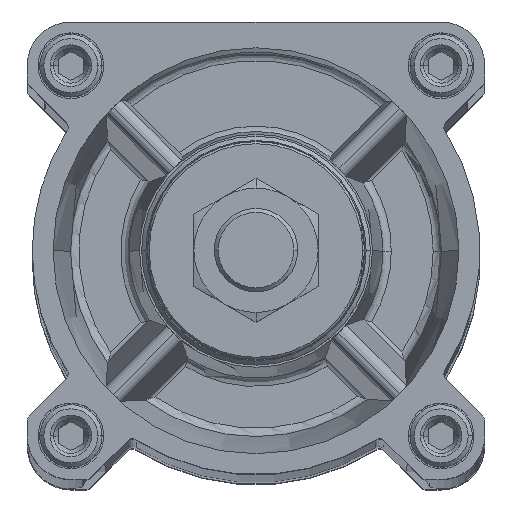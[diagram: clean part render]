
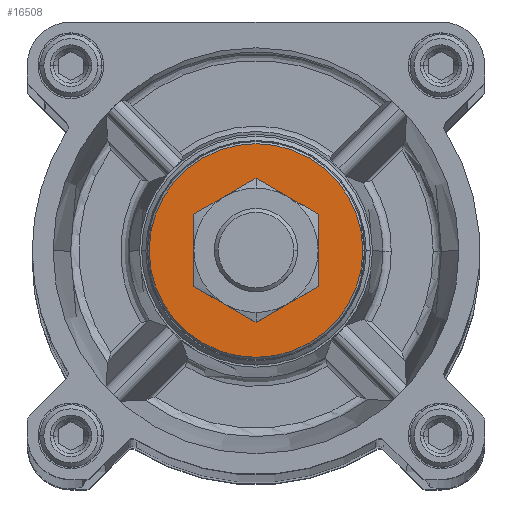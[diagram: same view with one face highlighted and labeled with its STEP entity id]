
A CAD part, top view. The second image highlights one B-rep face of the part: STEP entity #16508.
In plain terms, the highlighted planar face has unit normal (0, 0, 1).
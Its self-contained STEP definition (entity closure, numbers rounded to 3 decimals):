
#239 = EDGE_CURVE ( 'NONE', #12430, #11425, #13046, .T. ) ;
#898 = CIRCLE ( 'NONE', #14024, 12.5 ) ;
#1616 = AXIS2_PLACEMENT_3D ( 'NONE', #8321, #11285, #9859 ) ;
#1971 = ORIENTED_EDGE ( 'NONE', *, *, #239, .F. ) ;
#2018 = VERTEX_POINT ( 'NONE', #8880 ) ;
#2620 = ORIENTED_EDGE ( 'NONE', *, *, #13367, .T. ) ;
#2665 = FACE_BOUND ( 'NONE', #9127, .T. ) ;
#2748 = DIRECTION ( 'NONE',  ( 0., 0., -1. ) ) ;
#3447 = CARTESIAN_POINT ( 'NONE',  ( 0., 0., 38. ) ) ;
#4077 = DIRECTION ( 'NONE',  ( 0., 0., -1. ) ) ;
#4091 = DIRECTION ( 'NONE',  ( -1., 0., 0. ) ) ;
#4104 = FACE_OUTER_BOUND ( 'NONE', #16934, .T. ) ;
#4379 = EDGE_CURVE ( 'NONE', #11425, #12430, #17593, .T. ) ;
#5388 = CARTESIAN_POINT ( 'NONE',  ( 12.5, 0., 38. ) ) ;
#5629 = DIRECTION ( 'NONE',  ( 0., 0., -1. ) ) ;
#8321 = CARTESIAN_POINT ( 'NONE',  ( 0., 0., 38. ) ) ;
#8480 = PLANE ( 'NONE',  #17494 ) ;
#8546 = DIRECTION ( 'NONE',  ( -1., 0., 0. ) ) ;
#8729 = CARTESIAN_POINT ( 'NONE',  ( -25.681, 0., 38. ) ) ;
#8880 = CARTESIAN_POINT ( 'NONE',  ( -12.5, 0., 38. ) ) ;
#9127 = EDGE_LOOP ( 'NONE', ( #11475, #2620 ) ) ;
#9542 = CIRCLE ( 'NONE', #1616, 12.5 ) ;
#9859 = DIRECTION ( 'NONE',  ( -1., 0., 0. ) ) ;
#11285 = DIRECTION ( 'NONE',  ( 0., 0., -1. ) ) ;
#11423 = CARTESIAN_POINT ( 'NONE',  ( 0., 0., 38. ) ) ;
#11425 = VERTEX_POINT ( 'NONE', #16101 ) ;
#11475 = ORIENTED_EDGE ( 'NONE', *, *, #16078, .T. ) ;
#12430 = VERTEX_POINT ( 'NONE', #8729 ) ;
#13046 = CIRCLE ( 'NONE', #13661, 25.681 ) ;
#13319 = AXIS2_PLACEMENT_3D ( 'NONE', #3447, #16451, #17887 ) ;
#13367 = EDGE_CURVE ( 'NONE', #14770, #2018, #898, .T. ) ;
#13661 = AXIS2_PLACEMENT_3D ( 'NONE', #14302, #2748, #4091 ) ;
#14024 = AXIS2_PLACEMENT_3D ( 'NONE', #11423, #4077, #8546 ) ;
#14302 = CARTESIAN_POINT ( 'NONE',  ( 0., 0., 38. ) ) ;
#14770 = VERTEX_POINT ( 'NONE', #5388 ) ;
#15744 = ORIENTED_EDGE ( 'NONE', *, *, #4379, .F. ) ;
#15850 = DIRECTION ( 'NONE',  ( 0., -1., 0. ) ) ;
#16078 = EDGE_CURVE ( 'NONE', #2018, #14770, #9542, .T. ) ;
#16101 = CARTESIAN_POINT ( 'NONE',  ( 25.681, 0., 38. ) ) ;
#16451 = DIRECTION ( 'NONE',  ( 0., 0., -1. ) ) ;
#16508 = ADVANCED_FACE ( 'NONE', ( #4104, #2665 ), #8480, .F. ) ;
#16934 = EDGE_LOOP ( 'NONE', ( #1971, #15744 ) ) ;
#17494 = AXIS2_PLACEMENT_3D ( 'NONE', #18722, #5629, #15850 ) ;
#17593 = CIRCLE ( 'NONE', #13319, 25.681 ) ;
#17887 = DIRECTION ( 'NONE',  ( -1., 0., 0. ) ) ;
#18722 = CARTESIAN_POINT ( 'NONE',  ( 0., 0., 38. ) ) ;
